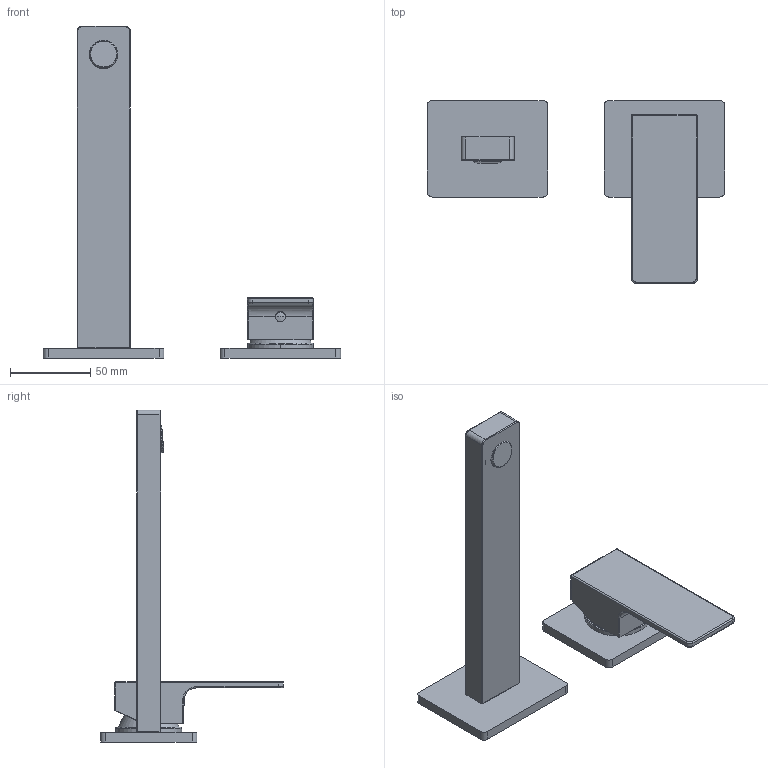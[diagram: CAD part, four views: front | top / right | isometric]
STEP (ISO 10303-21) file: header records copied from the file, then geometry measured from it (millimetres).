
FILE_DESCRIPTION(('STEP AP214'),'2;1');
FILE_NAME('DIS_3D_F811B+M111A.stp','2025-11-11T16:59:16',(''),(''),'2015.2.119','THINKDESIGN','');
FILE_SCHEMA(('AUTOMOTIVE_DESIGN'));
Length unit declared in the file: millimetre
Products named in the file (1): top
Bounding box: 185 x 113.8 x 206.5 mm (x, y, z)
Volume: 188690.7 mm3; surface area: 60957.7 mm2
Topology: 6 solids, 6 shells, 197 faces, 478 edges, 287 vertices
Faces by surface type: cylinder 71, plane 66, bspline 60
Entity records: 12393 total; most frequent: CARTESIAN_POINT 4515, ORIENTED_EDGE 924, DIRECTION 863, EDGE_CURVE 462, STYLED_ITEM 400, PRESENTATION_STYLE_ASSIGNMENT 395, SURFACE_STYLE_USAGE 395, SURFACE_SIDE_STYLE 395
